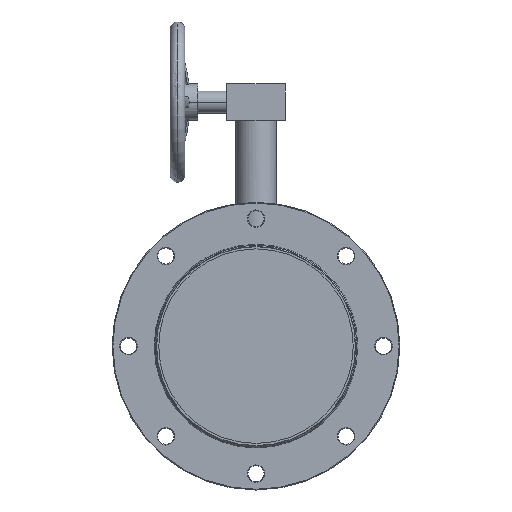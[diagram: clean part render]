
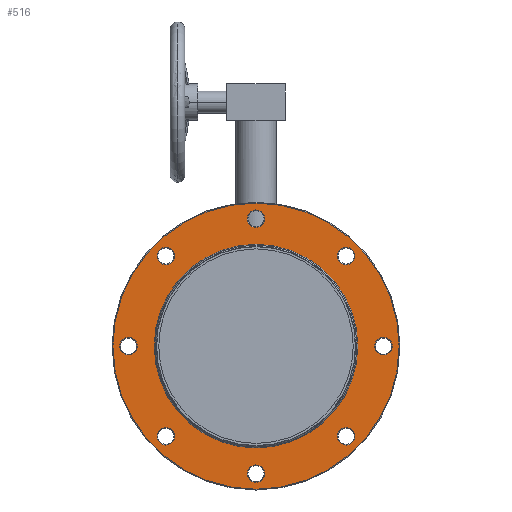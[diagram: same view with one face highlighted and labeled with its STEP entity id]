
A CAD part, front view. The second image highlights one B-rep face of the part: STEP entity #516.
In plain terms, the highlighted planar face has unit normal (0, -1, 0).
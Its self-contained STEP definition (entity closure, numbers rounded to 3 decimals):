
#204=PLANE('',#2116);
#240=FACE_BOUND('',#729,.T.);
#241=FACE_BOUND('',#730,.T.);
#242=FACE_BOUND('',#731,.T.);
#243=FACE_BOUND('',#732,.T.);
#244=FACE_BOUND('',#733,.T.);
#245=FACE_BOUND('',#734,.T.);
#246=FACE_BOUND('',#735,.T.);
#247=FACE_BOUND('',#736,.T.);
#248=FACE_BOUND('',#737,.T.);
#249=FACE_BOUND('',#738,.T.);
#516=ADVANCED_FACE('',(#240,#241,#242,#243,#244,#245,#246,#247,#248,#249),
#204,.F.);
#729=EDGE_LOOP('',(#1367));
#730=EDGE_LOOP('',(#1368));
#731=EDGE_LOOP('',(#1369));
#732=EDGE_LOOP('',(#1370));
#733=EDGE_LOOP('',(#1371));
#734=EDGE_LOOP('',(#1372));
#735=EDGE_LOOP('',(#1373));
#736=EDGE_LOOP('',(#1374));
#737=EDGE_LOOP('',(#1375));
#738=EDGE_LOOP('',(#1376));
#1007=CIRCLE('',#2106,12.);
#1008=CIRCLE('',#2107,12.);
#1009=CIRCLE('',#2108,12.);
#1010=CIRCLE('',#2109,12.);
#1011=CIRCLE('',#2110,12.);
#1012=CIRCLE('',#2111,12.);
#1013=CIRCLE('',#2112,12.);
#1014=CIRCLE('',#2113,12.);
#1015=CIRCLE('',#2114,136.5);
#1016=CIRCLE('',#2115,196.5);
#1367=ORIENTED_EDGE('',*,*,#1891,.T.);
#1368=ORIENTED_EDGE('',*,*,#1892,.T.);
#1369=ORIENTED_EDGE('',*,*,#1893,.T.);
#1370=ORIENTED_EDGE('',*,*,#1894,.T.);
#1371=ORIENTED_EDGE('',*,*,#1895,.T.);
#1372=ORIENTED_EDGE('',*,*,#1896,.T.);
#1373=ORIENTED_EDGE('',*,*,#1897,.T.);
#1374=ORIENTED_EDGE('',*,*,#1898,.T.);
#1375=ORIENTED_EDGE('',*,*,#1899,.T.);
#1376=ORIENTED_EDGE('',*,*,#1900,.F.);
#1679=VERTEX_POINT('',#3493);
#1680=VERTEX_POINT('',#3495);
#1681=VERTEX_POINT('',#3497);
#1682=VERTEX_POINT('',#3499);
#1683=VERTEX_POINT('',#3501);
#1684=VERTEX_POINT('',#3503);
#1685=VERTEX_POINT('',#3505);
#1686=VERTEX_POINT('',#3507);
#1687=VERTEX_POINT('',#3509);
#1688=VERTEX_POINT('',#3511);
#1891=EDGE_CURVE('',#1679,#1679,#1007,.T.);
#1892=EDGE_CURVE('',#1680,#1680,#1008,.T.);
#1893=EDGE_CURVE('',#1681,#1681,#1009,.T.);
#1894=EDGE_CURVE('',#1682,#1682,#1010,.T.);
#1895=EDGE_CURVE('',#1683,#1683,#1011,.T.);
#1896=EDGE_CURVE('',#1684,#1684,#1012,.T.);
#1897=EDGE_CURVE('',#1685,#1685,#1013,.T.);
#1898=EDGE_CURVE('',#1686,#1686,#1014,.T.);
#1899=EDGE_CURVE('',#1687,#1687,#1015,.T.);
#1900=EDGE_CURVE('',#1688,#1688,#1016,.T.);
#2106=AXIS2_PLACEMENT_3D('',#3492,#2497,#2498);
#2107=AXIS2_PLACEMENT_3D('',#3494,#2499,#2500);
#2108=AXIS2_PLACEMENT_3D('',#3496,#2501,#2502);
#2109=AXIS2_PLACEMENT_3D('',#3498,#2503,#2504);
#2110=AXIS2_PLACEMENT_3D('',#3500,#2505,#2506);
#2111=AXIS2_PLACEMENT_3D('',#3502,#2507,#2508);
#2112=AXIS2_PLACEMENT_3D('',#3504,#2509,#2510);
#2113=AXIS2_PLACEMENT_3D('',#3506,#2511,#2512);
#2114=AXIS2_PLACEMENT_3D('',#3508,#2513,#2514);
#2115=AXIS2_PLACEMENT_3D('',#3510,#2515,#2516);
#2116=AXIS2_PLACEMENT_3D('',#3512,#2517,#2518);
#2497=DIRECTION('',(0.,1.,0.));
#2498=DIRECTION('',(-1.,0.,0.));
#2499=DIRECTION('',(0.,1.,0.));
#2500=DIRECTION('',(-1.,0.,0.));
#2501=DIRECTION('',(0.,1.,0.));
#2502=DIRECTION('',(-1.,0.,0.));
#2503=DIRECTION('',(0.,1.,0.));
#2504=DIRECTION('',(-1.,0.,0.));
#2505=DIRECTION('',(0.,1.,0.));
#2506=DIRECTION('',(-1.,0.,0.));
#2507=DIRECTION('',(0.,1.,0.));
#2508=DIRECTION('',(-1.,0.,0.));
#2509=DIRECTION('',(0.,1.,0.));
#2510=DIRECTION('',(-1.,0.,0.));
#2511=DIRECTION('',(0.,1.,0.));
#2512=DIRECTION('',(-1.,0.,0.));
#2513=DIRECTION('',(0.,1.,0.));
#2514=DIRECTION('',(-1.,0.,0.));
#2515=DIRECTION('',(0.,1.,0.));
#2516=DIRECTION('',(-1.,0.,0.));
#2517=DIRECTION('',(0.,1.,0.));
#2518=DIRECTION('',(-1.,0.,0.));
#3492=CARTESIAN_POINT('',(0.,-61.88,-225.));
#3493=CARTESIAN_POINT('',(-12.,-61.88,-225.));
#3494=CARTESIAN_POINT('',(-123.744,-61.88,-173.744));
#3495=CARTESIAN_POINT('',(-135.744,-61.88,-173.744));
#3496=CARTESIAN_POINT('',(123.744,-61.88,-173.744));
#3497=CARTESIAN_POINT('',(111.744,-61.88,-173.744));
#3498=CARTESIAN_POINT('',(-175.,-61.88,-50.));
#3499=CARTESIAN_POINT('',(-187.,-61.88,-50.));
#3500=CARTESIAN_POINT('',(-123.744,-61.88,73.744));
#3501=CARTESIAN_POINT('',(-135.744,-61.88,73.744));
#3502=CARTESIAN_POINT('',(0.,-61.88,125.));
#3503=CARTESIAN_POINT('',(-12.,-61.88,125.));
#3504=CARTESIAN_POINT('',(123.744,-61.88,73.744));
#3505=CARTESIAN_POINT('',(111.744,-61.88,73.744));
#3506=CARTESIAN_POINT('',(175.,-61.88,-50.));
#3507=CARTESIAN_POINT('',(163.,-61.88,-50.));
#3508=CARTESIAN_POINT('',(0.,-61.88,-50.));
#3509=CARTESIAN_POINT('',(-136.5,-61.88,-50.));
#3510=CARTESIAN_POINT('',(0.,-61.88,-50.));
#3511=CARTESIAN_POINT('',(-196.5,-61.88,-50.));
#3512=CARTESIAN_POINT('',(136.5,-61.88,-50.));
